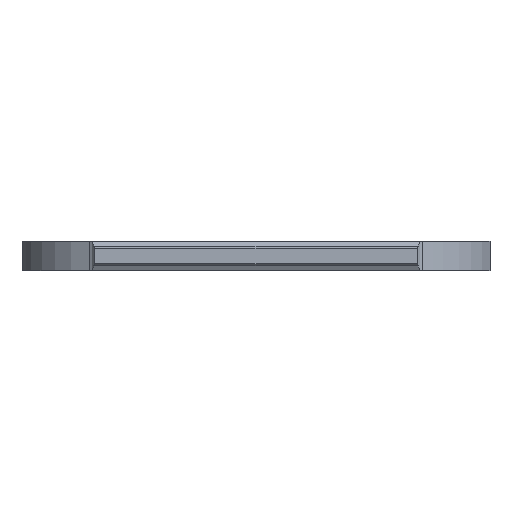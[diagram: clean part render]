
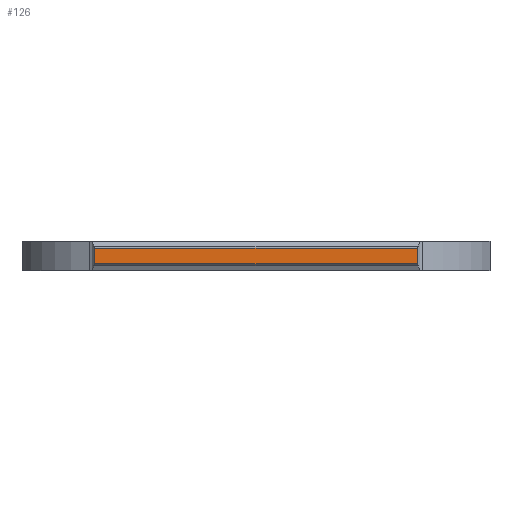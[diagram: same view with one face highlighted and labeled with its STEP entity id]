
A CAD part, front view. The second image highlights one B-rep face of the part: STEP entity #126.
In plain terms, the highlighted planar face has unit normal (0, -1, 0).
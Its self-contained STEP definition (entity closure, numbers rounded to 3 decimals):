
#126=ADVANCED_FACE('',(#872),#12825,.T.);
#872=FACE_OUTER_BOUND('',#1618,.T.);
#1618=EDGE_LOOP('',(#2628,#2629,#2630,#2631));
#2628=ORIENTED_EDGE('',*,*,#9072,.T.);
#2629=ORIENTED_EDGE('',*,*,#9066,.F.);
#2630=ORIENTED_EDGE('',*,*,#9062,.T.);
#2631=ORIENTED_EDGE('',*,*,#9067,.T.);
#9062=EDGE_CURVE('',#12793,#12795,#9751,.T.);
#9066=EDGE_CURVE('',#12793,#12800,#11315,.T.);
#9067=EDGE_CURVE('',#12795,#12801,#9754,.T.);
#9072=EDGE_CURVE('',#12801,#12800,#9757,.T.);
#9751=B_SPLINE_CURVE_WITH_KNOTS('',1,(#24836,#24837),.UNSPECIFIED.,.F.,
 .F.,(2,2),(269.033,282.803),.UNSPECIFIED.);
#9754=B_SPLINE_CURVE_WITH_KNOTS('',1,(#24852,#24853),.UNSPECIFIED.,.F.,
 .F.,(2,2),(0.3,0.95),.UNSPECIFIED.);
#9757=B_SPLINE_CURVE_WITH_KNOTS('',1,(#24869,#24870),.UNSPECIFIED.,.F.,
 .F.,(2,2),(-282.803,-269.033),.UNSPECIFIED.);
#11315=(
BOUNDED_CURVE()
B_SPLINE_CURVE(1,(#24850,#24851),.UNSPECIFIED.,.F.,.F.)
B_SPLINE_CURVE_WITH_KNOTS((2,2),(0.3,0.95),
 .UNSPECIFIED.)
CURVE()
GEOMETRIC_REPRESENTATION_ITEM()
RATIONAL_B_SPLINE_CURVE((1.,1.))
REPRESENTATION_ITEM('')
);
#12793=VERTEX_POINT('',#17359);
#12795=VERTEX_POINT('',#17361);
#12800=VERTEX_POINT('',#17366);
#12801=VERTEX_POINT('',#17367);
#12825=PLANE('',#13688);
#13688=AXIS2_PLACEMENT_3D('',#15186,#14437,$);
#14437=DIRECTION('',(0.,-1.,0.));
#15186=CARTESIAN_POINT('',(10.636,-13.5,-60.631));
#17359=CARTESIAN_POINT('',(10.636,-13.5,-60.931));
#17361=CARTESIAN_POINT('',(-3.134,-13.5,-60.931));
#17366=CARTESIAN_POINT('',(10.636,-13.5,-61.581));
#17367=CARTESIAN_POINT('',(-3.134,-13.5,-61.581));
#24836=CARTESIAN_POINT('',(10.636,-13.5,-60.931));
#24837=CARTESIAN_POINT('',(-3.134,-13.5,-60.931));
#24850=CARTESIAN_POINT('',(10.636,-13.5,-60.931));
#24851=CARTESIAN_POINT('',(10.636,-13.5,-61.581));
#24852=CARTESIAN_POINT('',(-3.134,-13.5,-60.931));
#24853=CARTESIAN_POINT('',(-3.134,-13.5,-61.581));
#24869=CARTESIAN_POINT('',(-3.134,-13.5,-61.581));
#24870=CARTESIAN_POINT('',(10.636,-13.5,-61.581));
